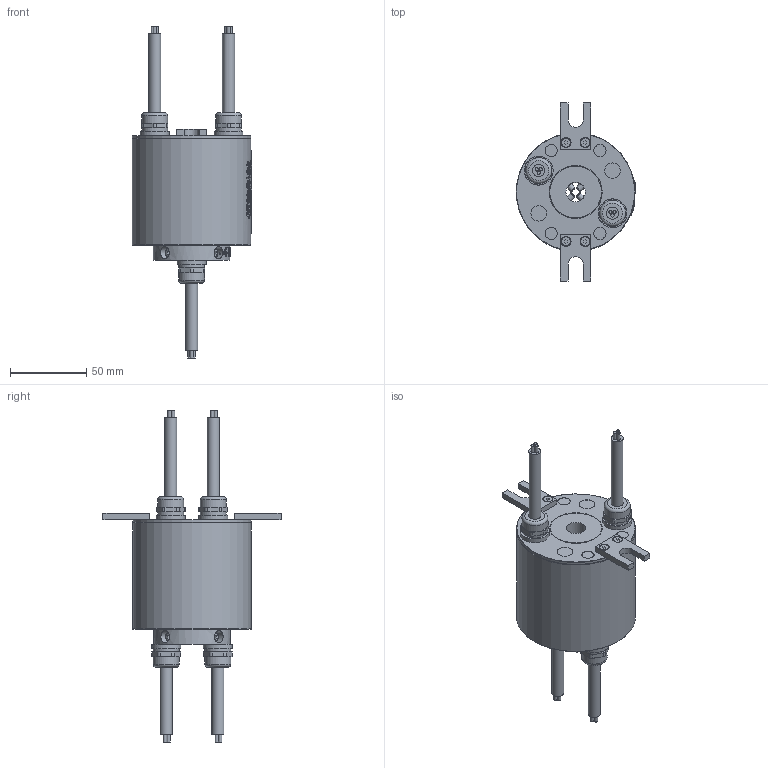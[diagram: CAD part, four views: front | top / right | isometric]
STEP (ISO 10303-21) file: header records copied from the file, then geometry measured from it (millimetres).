
FILE_DESCRIPTION(/* description */ (''),/* implementation_level */ '2;1');
FILE_NAME(/* name */ 'HD1278-0610-3D模型.stp',/* time_stamp */ '2025-09-23T15:42:07+08:00',/* author */ (''),/* organization */ (''),/* preprocessor_version */ 'ST-DEVELOPER v16.7',/* originating_system */ 'SIEMENS PLM Software NX 12.0',/* authorisation */ '');
FILE_SCHEMA (('AUTOMOTIVE_DESIGN { 1 0 10303 214 3 1 1 1 }'));
Length unit declared in the file: millimetre
Products named in the file (1): Admi8A8072AE0x4p
Bounding box: 78.5 x 117 x 218.14 mm (x, y, z)
Volume: 379652.8 mm3; surface area: 46433 mm2
Topology: 1 solids, 7 shells, 916 faces, 2359 edges, 1555 vertices
Faces by surface type: plane 440, extrusion 313, cylinder 108, bspline 30, cone 17, torus 8
Full cylindrical faces by diameter (mm): 2.2 x12, 3 x4, 3.4 x4, 4 x4, 6 x4, 7 x4, 8 x12, 10.2 x4, 12.7 x1, 17 x8, 19 x4, 34.4 x1, 34.8 x1, 38 x1, 50.4 x1, 67.4 x1, 73.2 x1, 78 x2
Entity records: 33101 total; most frequent: CARTESIAN_POINT 13744, ORIENTED_EDGE 4442, DIRECTION 2760, EDGE_CURVE 2221, B_SPLINE_CURVE_WITH_KNOTS 1648, VERTEX_POINT 1511, EDGE_LOOP 1118, AXIS2_PLACEMENT_3D 987
